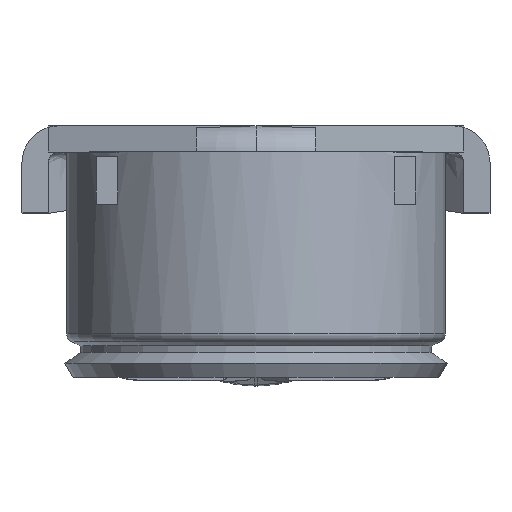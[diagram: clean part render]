
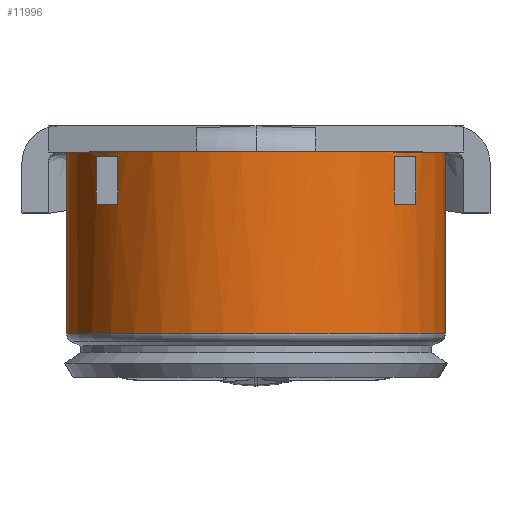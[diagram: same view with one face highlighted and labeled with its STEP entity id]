
A CAD part, top view. The second image highlights one B-rep face of the part: STEP entity #11996.
In plain terms, the highlighted cylindrical face has radius 0.87 mm (diameter 1.74 mm), a partial arc.
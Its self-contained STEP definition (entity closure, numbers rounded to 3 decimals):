
#8 = DIRECTION ( 'NONE',  ( 0., -1., 0. ) ) ;
#456 = VERTEX_POINT ( 'NONE', #4035 ) ;
#786 = DIRECTION ( 'NONE',  ( 0., -1., 0. ) ) ;
#837 = CIRCLE ( 'NONE', #8145, 0.87 ) ;
#965 = VERTEX_POINT ( 'NONE', #13030 ) ;
#1101 = CARTESIAN_POINT ( 'NONE',  ( 0., 1.23, 0. ) ) ;
#1192 = ORIENTED_EDGE ( 'NONE', *, *, #14203, .F. ) ;
#1257 = EDGE_CURVE ( 'NONE', #13214, #16729, #2325, .T. ) ;
#1339 = FACE_BOUND ( 'NONE', #7349, .T. ) ;
#1679 = EDGE_CURVE ( 'NONE', #4846, #13214, #2631, .T. ) ;
#1804 = AXIS2_PLACEMENT_3D ( 'NONE', #8164, #3030, #17204 ) ;
#1819 = DIRECTION ( 'NONE',  ( 0., 1., 0. ) ) ;
#1853 = CARTESIAN_POINT ( 'NONE',  ( -0.87, 0.395, 0. ) ) ;
#2216 = CIRCLE ( 'NONE', #6665, 0.87 ) ;
#2225 = VERTEX_POINT ( 'NONE', #4575 ) ;
#2325 = LINE ( 'NONE', #15652, #12607 ) ;
#2336 = DIRECTION ( 'NONE',  ( 0., 1., 0. ) ) ;
#2427 = CARTESIAN_POINT ( 'NONE',  ( 0.735, 1.21, 0.465 ) ) ;
#2444 = DIRECTION ( 'NONE',  ( 1., 0., 0. ) ) ;
#2526 = DIRECTION ( 'NONE',  ( -1., 0., 0. ) ) ;
#2605 = LINE ( 'NONE', #9031, #16442 ) ;
#2631 = CIRCLE ( 'NONE', #13773, 0.87 ) ;
#2636 = DIRECTION ( 'NONE',  ( 0., 1., 0. ) ) ;
#2876 = CIRCLE ( 'NONE', #15544, 0.87 ) ;
#3030 = DIRECTION ( 'NONE',  ( 0., 1., 0. ) ) ;
#3175 = DIRECTION ( 'NONE',  ( 0., 0., -1. ) ) ;
#3301 = ORIENTED_EDGE ( 'NONE', *, *, #17275, .F. ) ;
#3376 = DIRECTION ( 'NONE',  ( 0., 1., 0. ) ) ;
#3714 = VERTEX_POINT ( 'NONE', #6410 ) ;
#3940 = FACE_BOUND ( 'NONE', #5467, .T. ) ;
#4035 = CARTESIAN_POINT ( 'NONE',  ( -0.735, 0.99, 0.465 ) ) ;
#4087 = AXIS2_PLACEMENT_3D ( 'NONE', #8900, #786, #10207 ) ;
#4098 = EDGE_CURVE ( 'NONE', #3714, #14305, #7728, .T. ) ;
#4438 = ORIENTED_EDGE ( 'NONE', *, *, #1257, .T. ) ;
#4575 = CARTESIAN_POINT ( 'NONE',  ( -0.635, 1.21, 0.595 ) ) ;
#4624 = VERTEX_POINT ( 'NONE', #12775 ) ;
#4846 = VERTEX_POINT ( 'NONE', #1853 ) ;
#4937 = ORIENTED_EDGE ( 'NONE', *, *, #16147, .F. ) ;
#5023 = VECTOR ( 'NONE', #13219, 1000. ) ;
#5467 = EDGE_LOOP ( 'NONE', ( #4937, #7353, #1192, #9182 ) ) ;
#5469 = CARTESIAN_POINT ( 'NONE',  ( -0.735, 0.63, 0.465 ) ) ;
#5689 = CARTESIAN_POINT ( 'NONE',  ( -0.635, 0.63, 0.595 ) ) ;
#5734 = VECTOR ( 'NONE', #6175, 1000. ) ;
#5776 = ORIENTED_EDGE ( 'NONE', *, *, #4098, .F. ) ;
#5862 = EDGE_LOOP ( 'NONE', ( #12741, #14906, #4438, #3301, #15477, #5776 ) ) ;
#6175 = DIRECTION ( 'NONE',  ( 0., -1., 0. ) ) ;
#6297 = VERTEX_POINT ( 'NONE', #13258 ) ;
#6410 = CARTESIAN_POINT ( 'NONE',  ( -0.87, 1.23, 0. ) ) ;
#6646 = DIRECTION ( 'NONE',  ( 0., 1., 0. ) ) ;
#6665 = AXIS2_PLACEMENT_3D ( 'NONE', #10628, #2636, #12004 ) ;
#7349 = EDGE_LOOP ( 'NONE', ( #11310, #16968, #12115, #8732 ) ) ;
#7353 = ORIENTED_EDGE ( 'NONE', *, *, #8302, .T. ) ;
#7567 = CARTESIAN_POINT ( 'NONE',  ( 0.587, 1.23, 0.642 ) ) ;
#7726 = DIRECTION ( 'NONE',  ( 0., -1., 0. ) ) ;
#7728 = CIRCLE ( 'NONE', #1804, 0.87 ) ;
#8051 = VERTEX_POINT ( 'NONE', #7567 ) ;
#8145 = AXIS2_PLACEMENT_3D ( 'NONE', #15758, #7726, #17104 ) ;
#8164 = CARTESIAN_POINT ( 'NONE',  ( 0., 1.23, 0. ) ) ;
#8302 = EDGE_CURVE ( 'NONE', #2225, #965, #8790, .T. ) ;
#8665 = VECTOR ( 'NONE', #17121, 1000. ) ;
#8732 = ORIENTED_EDGE ( 'NONE', *, *, #11622, .T. ) ;
#8790 = LINE ( 'NONE', #5689, #9616 ) ;
#8900 = CARTESIAN_POINT ( 'NONE',  ( 0., 1.21, 0. ) ) ;
#9031 = CARTESIAN_POINT ( 'NONE',  ( 0.635, 0.63, 0.595 ) ) ;
#9182 = ORIENTED_EDGE ( 'NONE', *, *, #11607, .T. ) ;
#9616 = VECTOR ( 'NONE', #8, 1000. ) ;
#9653 = VERTEX_POINT ( 'NONE', #2427 ) ;
#9933 = CARTESIAN_POINT ( 'NONE',  ( 0., 0.395, 0. ) ) ;
#10053 = AXIS2_PLACEMENT_3D ( 'NONE', #17540, #12378, #3175 ) ;
#10202 = VERTEX_POINT ( 'NONE', #15481 ) ;
#10207 = DIRECTION ( 'NONE',  ( -1., 0., 0. ) ) ;
#10512 = DIRECTION ( 'NONE',  ( 0., 1., 0. ) ) ;
#10577 = CARTESIAN_POINT ( 'NONE',  ( -0.87, 1.427, 0. ) ) ;
#10621 = AXIS2_PLACEMENT_3D ( 'NONE', #11376, #3376, #12755 ) ;
#10628 = CARTESIAN_POINT ( 'NONE',  ( 0., 1.23, 0. ) ) ;
#11136 = DIRECTION ( 'NONE',  ( 0., 1., 0. ) ) ;
#11310 = ORIENTED_EDGE ( 'NONE', *, *, #13770, .T. ) ;
#11376 = CARTESIAN_POINT ( 'NONE',  ( 0., 0.99, 0. ) ) ;
#11482 = CARTESIAN_POINT ( 'NONE',  ( 0.735, 0.63, 0.465 ) ) ;
#11505 = AXIS2_PLACEMENT_3D ( 'NONE', #15938, #6646, #2444 ) ;
#11551 = CARTESIAN_POINT ( 'NONE',  ( -0.587, 1.23, 0.642 ) ) ;
#11607 = EDGE_CURVE ( 'NONE', #456, #4624, #16012, .T. ) ;
#11622 = EDGE_CURVE ( 'NONE', #6297, #15251, #12235, .T. ) ;
#11996 = ADVANCED_FACE ( 'NONE', ( #15696, #1339, #3940 ), #13607, .T. ) ;
#12004 = DIRECTION ( 'NONE',  ( -1., 0., 0. ) ) ;
#12099 = CIRCLE ( 'NONE', #4087, 0.87 ) ;
#12115 = ORIENTED_EDGE ( 'NONE', *, *, #15017, .T. ) ;
#12235 = CIRCLE ( 'NONE', #10053, 0.87 ) ;
#12378 = DIRECTION ( 'NONE',  ( 0., -1., 0. ) ) ;
#12607 = VECTOR ( 'NONE', #11136, 1000. ) ;
#12741 = ORIENTED_EDGE ( 'NONE', *, *, #13322, .F. ) ;
#12755 = DIRECTION ( 'NONE',  ( 0., 0., 1. ) ) ;
#12775 = CARTESIAN_POINT ( 'NONE',  ( -0.735, 1.21, 0.465 ) ) ;
#13030 = CARTESIAN_POINT ( 'NONE',  ( -0.635, 0.99, 0.595 ) ) ;
#13214 = VERTEX_POINT ( 'NONE', #15748 ) ;
#13219 = DIRECTION ( 'NONE',  ( 0., 1., 0. ) ) ;
#13258 = CARTESIAN_POINT ( 'NONE',  ( 0.735, 0.99, 0.465 ) ) ;
#13322 = EDGE_CURVE ( 'NONE', #4846, #3714, #15302, .T. ) ;
#13337 = CARTESIAN_POINT ( 'NONE',  ( 0.635, 0.99, 0.595 ) ) ;
#13607 = CYLINDRICAL_SURFACE ( 'NONE', #11505, 0.87 ) ;
#13770 = EDGE_CURVE ( 'NONE', #15251, #10202, #2605, .T. ) ;
#13773 = AXIS2_PLACEMENT_3D ( 'NONE', #9933, #1819, #14842 ) ;
#14203 = EDGE_CURVE ( 'NONE', #456, #965, #16218, .T. ) ;
#14305 = VERTEX_POINT ( 'NONE', #11551 ) ;
#14586 = LINE ( 'NONE', #11482, #5734 ) ;
#14842 = DIRECTION ( 'NONE',  ( -1., 0., 0. ) ) ;
#14906 = ORIENTED_EDGE ( 'NONE', *, *, #1679, .T. ) ;
#15017 = EDGE_CURVE ( 'NONE', #9653, #6297, #14586, .T. ) ;
#15251 = VERTEX_POINT ( 'NONE', #13337 ) ;
#15302 = LINE ( 'NONE', #10577, #5023 ) ;
#15477 = ORIENTED_EDGE ( 'NONE', *, *, #15890, .F. ) ;
#15481 = CARTESIAN_POINT ( 'NONE',  ( 0.635, 1.21, 0.595 ) ) ;
#15544 = AXIS2_PLACEMENT_3D ( 'NONE', #1101, #10512, #2526 ) ;
#15652 = CARTESIAN_POINT ( 'NONE',  ( 0.87, 1.427, 0. ) ) ;
#15696 = FACE_OUTER_BOUND ( 'NONE', #5862, .T. ) ;
#15748 = CARTESIAN_POINT ( 'NONE',  ( 0.87, 0.395, 0. ) ) ;
#15758 = CARTESIAN_POINT ( 'NONE',  ( 0., 1.21, 0. ) ) ;
#15890 = EDGE_CURVE ( 'NONE', #14305, #8051, #2876, .T. ) ;
#15938 = CARTESIAN_POINT ( 'NONE',  ( 0., 1.427, 0. ) ) ;
#15977 = CARTESIAN_POINT ( 'NONE',  ( 0.87, 1.23, 0. ) ) ;
#16012 = LINE ( 'NONE', #5469, #8665 ) ;
#16147 = EDGE_CURVE ( 'NONE', #2225, #4624, #12099, .T. ) ;
#16218 = CIRCLE ( 'NONE', #10621, 0.87 ) ;
#16442 = VECTOR ( 'NONE', #2336, 1000. ) ;
#16729 = VERTEX_POINT ( 'NONE', #15977 ) ;
#16968 = ORIENTED_EDGE ( 'NONE', *, *, #17461, .F. ) ;
#17104 = DIRECTION ( 'NONE',  ( -1., 0., 0. ) ) ;
#17121 = DIRECTION ( 'NONE',  ( 0., 1., 0. ) ) ;
#17204 = DIRECTION ( 'NONE',  ( -1., 0., 0. ) ) ;
#17275 = EDGE_CURVE ( 'NONE', #8051, #16729, #2216, .T. ) ;
#17461 = EDGE_CURVE ( 'NONE', #9653, #10202, #837, .T. ) ;
#17540 = CARTESIAN_POINT ( 'NONE',  ( 0., 0.99, 0. ) ) ;
